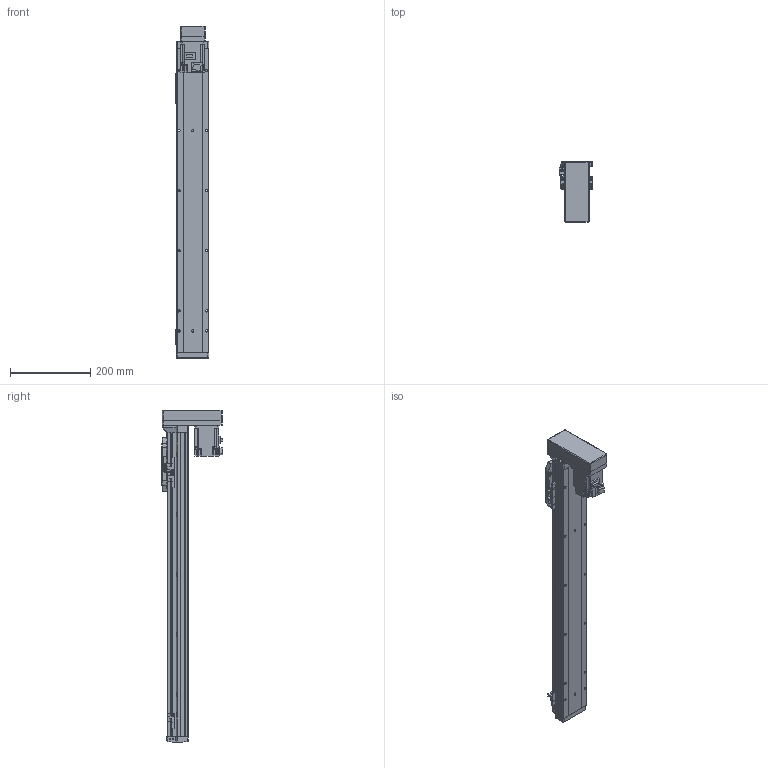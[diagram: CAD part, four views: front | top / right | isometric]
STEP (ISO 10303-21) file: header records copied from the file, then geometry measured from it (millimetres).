
FILE_DESCRIPTION (( 'STEP AP214' ), '1' );
FILE_NAME ('GSH8-600-BM-M20-1.step', '2025-01-07T06:08:46', ( '' ), ( '' ), 'SwSTEP 2.0', 'SolidWorks 2012', '' );
FILE_SCHEMA (( 'AUTOMOTIVE_DESIGN' ));
Length unit declared in the file: millimetre
Products named in the file (5): GSH8-BL-008; GSH8-600-BM-M20-1; GSH8-GY-004; HG-KR23_200W_Motor; GSH8-BL-011-600-M20
Assembly tree (4 placements, depth 2):
  GSH8-600-BM-M20-1
    GSH8-BL-011-600-M20
    GSH8-GY-004
    GSH8-BL-008
    HG-KR23_200W_Motor
Bounding box: 84 x 152.3 x 828.2 mm (x, y, z)
Volume: 2078376.1 mm3; surface area: 515097.1 mm2
Topology: 4 solids, 8 shells, 1133 faces, 2972 edges, 1912 vertices
Faces by surface type: plane 642, cylinder 395, torus 42, cone 26, bspline 24, sphere 4
Entity records: 44954 total; most frequent: CARTESIAN_POINT 10618, DIRECTION 6032, ORIENTED_EDGE 5928, EDGE_CURVE 2964, AXIS2_PLACEMENT_3D 2030, LINE 1972, VECTOR 1972, VERTEX_POINT 1908
